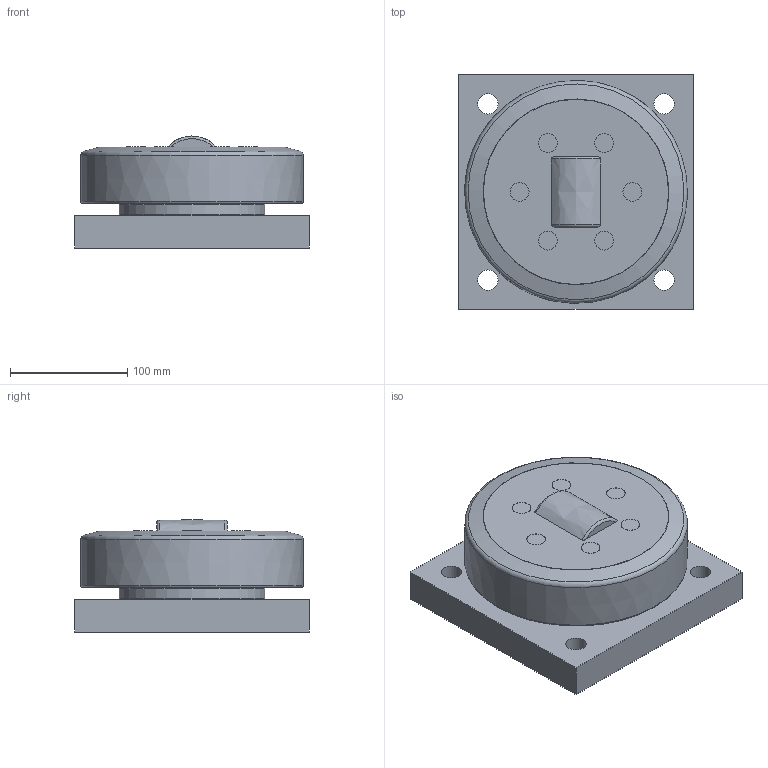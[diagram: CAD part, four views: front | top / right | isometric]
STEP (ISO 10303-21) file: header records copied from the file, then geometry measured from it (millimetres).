
FILE_DESCRIPTION((''),'2;1');
FILE_NAME('K:\Daten\KOMPONENTEN 2D + 3D\KOMPONENTEN Step-Files für extern\_ALFATEC_Mammutrollen und Profile\MR .0610 mit Platte\ALFATEC_MR 190.0610_BQ1000.stp','2013-10-01T13:28:41',('hipp'),(''),'Autodesk Inventor 2013','Autodesk Inventor 2013','');
FILE_SCHEMA(('CONFIG_CONTROL_DESIGN'));
Length unit declared in the file: millimetre
Products named in the file (1): MR 190.0610_BQ1000_Shrinkwrap_1
Bounding box: 200 x 200 x 95.5 mm (x, y, z)
Volume: 2490279.2 mm3; surface area: 176566.1 mm2
Topology: 1 solids, 1 shells, 43 faces, 93 edges, 63 vertices
Faces by surface type: plane 18, cylinder 13, torus 5, cone 5, bspline 2
Full cylindrical faces by diameter (mm): 16 x6, 17.294 x4, 90 x1, 100 x1, 124 x1
Entity records: 1150 total; most frequent: CARTESIAN_POINT 242, DIRECTION 178, ORIENTED_EDGE 120, EDGE_LOOP 84, AXIS2_PLACEMENT_3D 82, EDGE_CURVE 60, VERTEX_POINT 52, FACE_OUTER_BOUND 43
